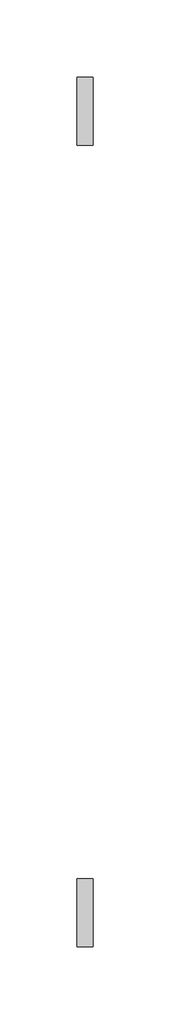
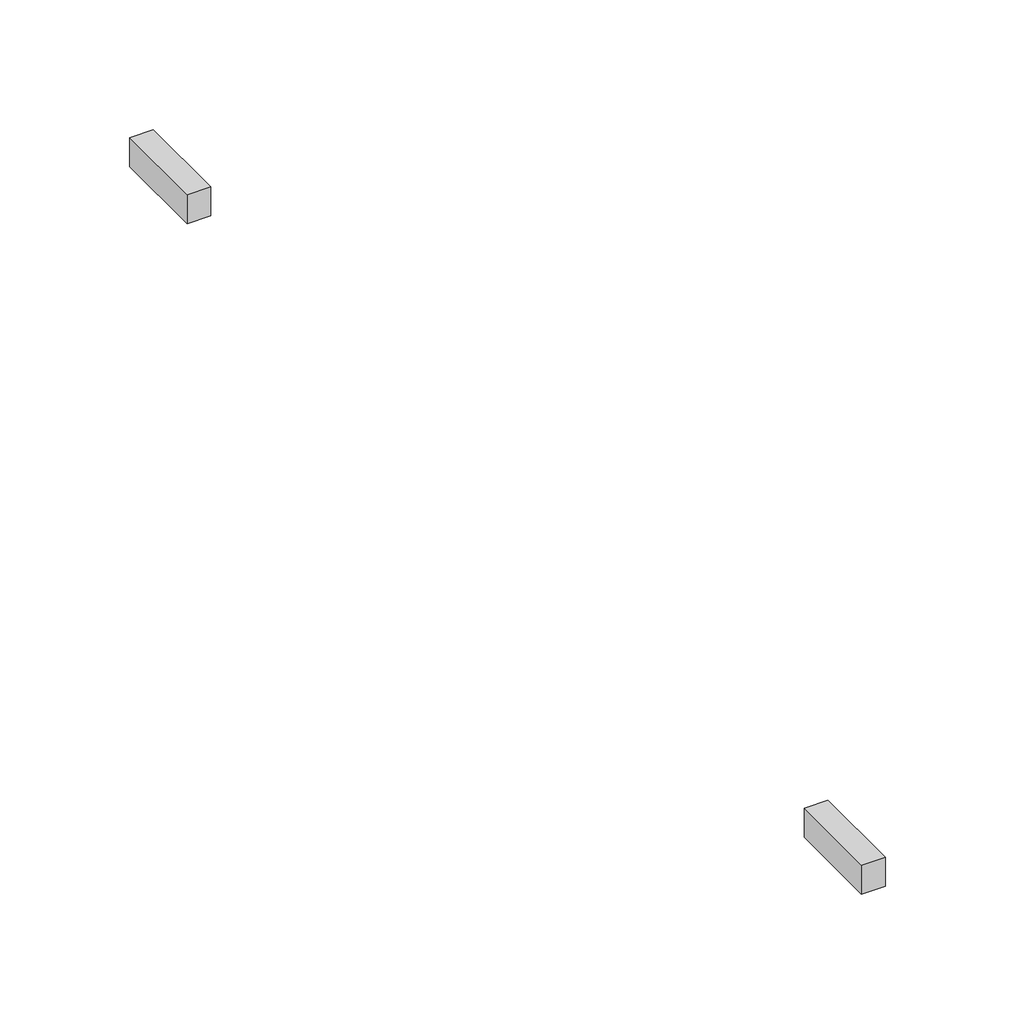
# One storey, incomplete: 4 proxies.
"""IFC4 building model written with IfcOpenShell, lengths in millimetres."""

from ifc_helpers import new_model, si_unit, origin, place, context, project, spatial, transform, mapped, element, save
from components import electrical_equipment_159b6aa7

model = new_model("IFC4")

# Units and contexts
model_context = context("Model", 3, world=origin())
ifc_project = project(units=[si_unit("LENGTHUNIT", "METRE", prefix="MILLI")], contexts=[model_context])

# Site, building, storey
site = spatial("IfcSite", under=ifc_project)
building = spatial("IfcBuilding", under=site)
storey = spatial("IfcBuildingStorey", under=building, Name="1° Pavimento", Elevation=55900.0)

# Proxies
placement = place(None, origin())
electrical_equipment_shape = electrical_equipment_159b6aa7(model_context)
element("IfcBuildingElementProxy", 1, Name="Amortecedor de Vibração : Bandeja de Rack", ObjectType="Amortecedor de Vibração : Bandeja de Rack", at=placement, inside=storey, context=model_context, shape_type="MappedRepresentation", body=[
    mapped(electrical_equipment_shape, transform((15977.5539458, -20233.5583923, 55975.0), x_axis=(0.0, -1.0, 0.0), y_axis=(1.0, 0.0, 0.0), z_axis=(0.0, 0.0, 1.0))),
])
element("IfcBuildingElementProxy", 2, Name="Amortecedor de Vibração : Bandeja de Rack", ObjectType="Amortecedor de Vibração : Bandeja de Rack", at=placement, inside=storey, context=model_context, shape_type="MappedRepresentation", body=[
    mapped(electrical_equipment_shape, transform((15977.5539458, -20233.5583923, 55975.0), x_axis=(0.0, -1.0, 0.0), y_axis=(1.0, 0.0, 0.0), z_axis=(0.0, 0.0, 1.0))),
])
element("IfcBuildingElementProxy", 3, Name="Amortecedor de Vibração : Bandeja de Rack", ObjectType="Amortecedor de Vibração : Bandeja de Rack", at=placement, inside=storey, context=model_context, shape_type="MappedRepresentation", body=[
    mapped(electrical_equipment_shape, transform((15977.5539458, -20753.9868896, 55975.0), x_axis=(0.0, -1.0, 0.0), y_axis=(1.0, 0.0, 0.0), z_axis=(0.0, 0.0, 1.0))),
])
element("IfcBuildingElementProxy", 4, Name="Amortecedor de Vibração : Bandeja de Rack", ObjectType="Amortecedor de Vibração : Bandeja de Rack", at=placement, inside=storey, context=model_context, shape_type="MappedRepresentation", body=[
    mapped(electrical_equipment_shape, transform((15977.5539458, -20753.9868896, 55975.0), x_axis=(0.0, -1.0, 0.0), y_axis=(1.0, 0.0, 0.0), z_axis=(0.0, 0.0, 1.0))),
])

save(model, "model.ifc")
